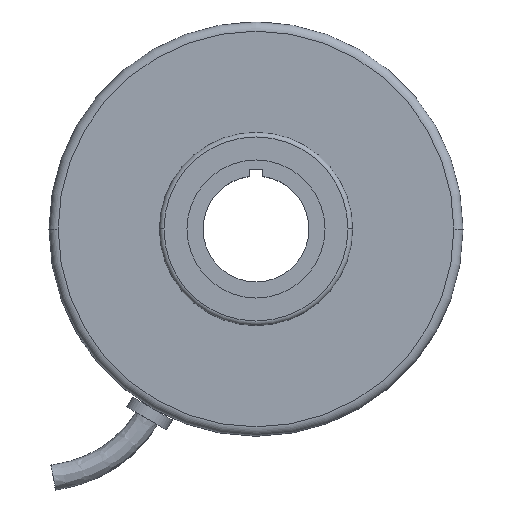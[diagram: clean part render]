
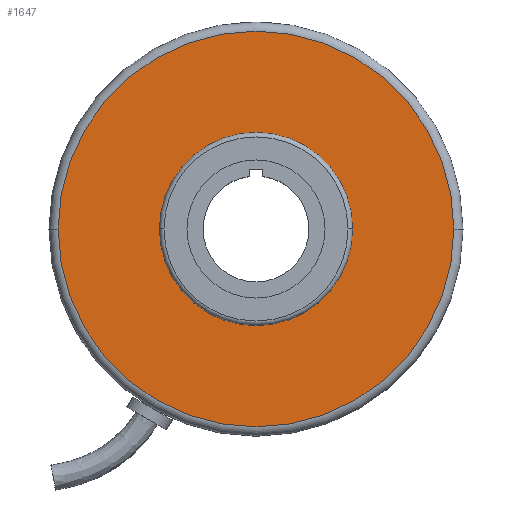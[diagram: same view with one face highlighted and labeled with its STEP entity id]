
A CAD part, top view. The second image highlights one B-rep face of the part: STEP entity #1647.
In plain terms, the highlighted planar face has unit normal (0, 0, 1).
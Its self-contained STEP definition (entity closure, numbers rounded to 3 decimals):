
#33 = VERTEX_POINT ( 'NONE', #744 ) ;
#52 = CARTESIAN_POINT ( 'NONE',  ( 21., 0., 30. ) ) ;
#68 = DIRECTION ( 'NONE',  ( 1., 0., 0. ) ) ;
#77 = DIRECTION ( 'NONE',  ( 1., 0., 0. ) ) ;
#326 = CARTESIAN_POINT ( 'NONE',  ( 0., 0., 30. ) ) ;
#333 = DIRECTION ( 'NONE',  ( 0., 0., 1. ) ) ;
#403 = CARTESIAN_POINT ( 'NONE',  ( -21., 0., 30. ) ) ;
#514 = DIRECTION ( 'NONE',  ( 1., 0., 0. ) ) ;
#580 = ORIENTED_EDGE ( 'NONE', *, *, #1089, .F. ) ;
#595 = DIRECTION ( 'NONE',  ( 1., 0., 0. ) ) ;
#598 = FACE_OUTER_BOUND ( 'NONE', #1068, .T. ) ;
#605 = DIRECTION ( 'NONE',  ( 0., 0., 1. ) ) ;
#609 = ORIENTED_EDGE ( 'NONE', *, *, #619, .T. ) ;
#613 = AXIS2_PLACEMENT_3D ( 'NONE', #1132, #634, #1523 ) ;
#616 = AXIS2_PLACEMENT_3D ( 'NONE', #1612, #715, #77 ) ;
#619 = EDGE_CURVE ( 'NONE', #1172, #33, #1214, .T. ) ;
#634 = DIRECTION ( 'NONE',  ( 0., 0., 1. ) ) ;
#683 = EDGE_CURVE ( 'NONE', #33, #1172, #1242, .T. ) ;
#715 = DIRECTION ( 'NONE',  ( 0., 0., 1. ) ) ;
#744 = CARTESIAN_POINT ( 'NONE',  ( 43., 0., 30. ) ) ;
#766 = VERTEX_POINT ( 'NONE', #52 ) ;
#864 = CIRCLE ( 'NONE', #616, 21. ) ;
#867 = EDGE_CURVE ( 'NONE', #1569, #766, #1151, .T. ) ;
#904 = CARTESIAN_POINT ( 'NONE',  ( 0., 0., 30. ) ) ;
#929 = ORIENTED_EDGE ( 'NONE', *, *, #867, .F. ) ;
#936 = ORIENTED_EDGE ( 'NONE', *, *, #683, .T. ) ;
#999 = AXIS2_PLACEMENT_3D ( 'NONE', #326, #333, #595 ) ;
#1002 = PLANE ( 'NONE',  #1295 ) ;
#1054 = CARTESIAN_POINT ( 'NONE',  ( -43., 0., 30. ) ) ;
#1059 = EDGE_LOOP ( 'NONE', ( #929, #580 ) ) ;
#1068 = EDGE_LOOP ( 'NONE', ( #936, #609 ) ) ;
#1089 = EDGE_CURVE ( 'NONE', #766, #1569, #864, .T. ) ;
#1101 = CARTESIAN_POINT ( 'NONE',  ( 0., 0., 30. ) ) ;
#1117 = FACE_BOUND ( 'NONE', #1059, .T. ) ;
#1132 = CARTESIAN_POINT ( 'NONE',  ( 0., 0., 30. ) ) ;
#1151 = CIRCLE ( 'NONE', #999, 21. ) ;
#1172 = VERTEX_POINT ( 'NONE', #1054 ) ;
#1214 = CIRCLE ( 'NONE', #613, 43. ) ;
#1242 = CIRCLE ( 'NONE', #1553, 43. ) ;
#1295 = AXIS2_PLACEMENT_3D ( 'NONE', #1101, #605, #68 ) ;
#1412 = DIRECTION ( 'NONE',  ( 0., 0., 1. ) ) ;
#1523 = DIRECTION ( 'NONE',  ( 1., 0., 0. ) ) ;
#1553 = AXIS2_PLACEMENT_3D ( 'NONE', #904, #1412, #514 ) ;
#1569 = VERTEX_POINT ( 'NONE', #403 ) ;
#1612 = CARTESIAN_POINT ( 'NONE',  ( 0., 0., 30. ) ) ;
#1647 = ADVANCED_FACE ( 'NONE', ( #1117, #598 ), #1002, .T. ) ;
